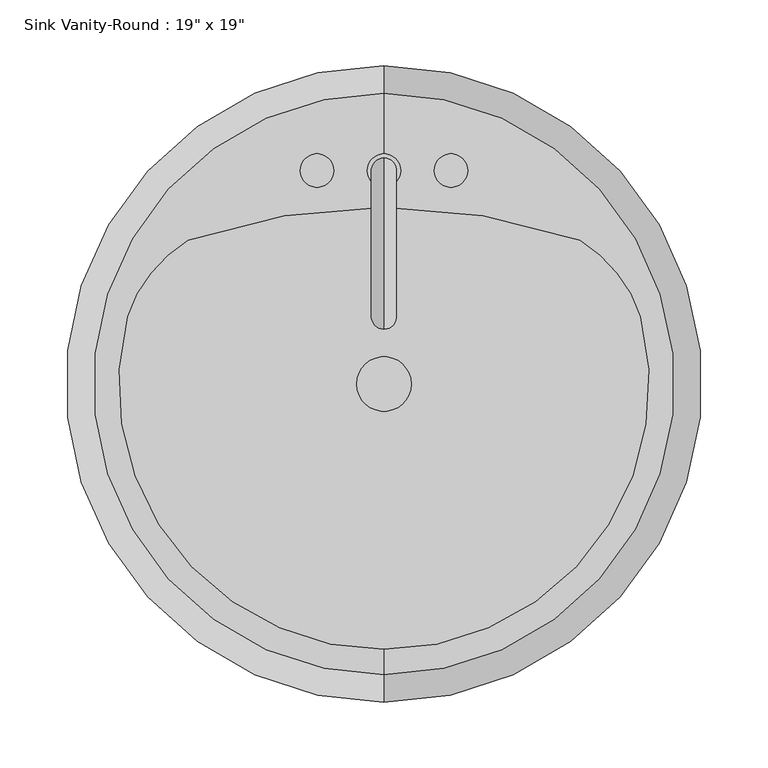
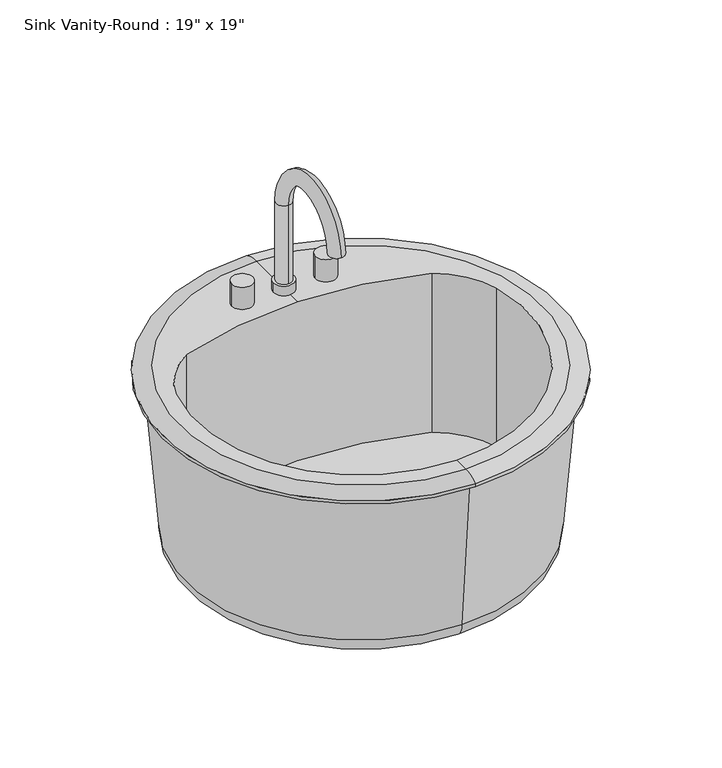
"""IFC4 building model written with IfcOpenShell, lengths in millimetres: flow terminal geometry."""

from ifc_helpers import new_model, si_unit, point, frame, frame_2d, origin, place, context, project, spatial, polyline, circle_curve, ellipse_curve, trimmed, segment, composite_curve, outline, extrude, source, transform, mapped, element, save
from ifc_brep_helpers import plane_surface, cylinder_surface, revolved_surface, advanced_brep


def flow_terminal_d49f872f(model_context):
    return source(origin(), model_context, "Body", "SolidModel", [
        advanced_brep(
        [(83.9517406, 247.0927185, 796.925), (109.3517406, 247.0927185, 796.925), (96.6517406, 237.5677185, 909.6375), (96.6517406, 256.6177185, 909.6375), (96.6517406, 256.6177185, 809.1602909), (96.6517406, 237.5677185, 809.1602909), (96.6517406, 145.7775038, 909.6375), (96.6517406, 126.7275038, 909.6375), (83.9517406, 247.0927185, 809.1602909), (109.3517406, 247.0927185, 809.1602909)],
        [
            (0, 1, circle_curve(frame((96.6517406, 247.0927185, 796.925), z_axis=(0.0, 0.0, -1.0), x_axis=(1.0, 0.0, 0.0)), 12.7)),
            (1, 0, circle_curve(frame((96.6517406, 247.0927185, 796.925), z_axis=(0.0, 0.0, -1.0), x_axis=(1.0, 0.0, 0.0)), 12.7)),
            (2, 3, circle_curve(frame((96.6517406, 247.0927185, 909.6375), z_axis=(0.0, 0.0, -1.0), x_axis=(0.0, 1.0, 0.0)), 9.525)),
            (3, 4),
            (4, 5, circle_curve(frame((96.6517406, 247.0927185, 809.1602909), z_axis=(0.0, 0.0, 1.0), x_axis=(0.0, 1.0, 0.0)), 9.525)),
            (5, 2),
            (3, 2, circle_curve(frame((96.6517406, 247.0927185, 909.6375), z_axis=(0.0, 0.0, -1.0), x_axis=(0.0, 1.0, 0.0)), 9.525)),
            (5, 4, circle_curve(frame((96.6517406, 247.0927185, 809.1602909), z_axis=(0.0, 0.0, 1.0), x_axis=(0.0, 1.0, 0.0)), 9.525)),
            (6, 7, circle_curve(frame((96.6517406, 136.2525038, 909.6375), z_axis=(0.0, 0.0, -1.0), x_axis=(0.0, -1.0, 0.0)), 9.525)),
            (7, 6, circle_curve(frame((96.6517406, 136.2525038, 909.6375), z_axis=(0.0, 0.0, -1.0), x_axis=(0.0, -1.0, 0.0)), 9.525)),
            (2, 6, circle_curve(frame((96.6517406, 191.6726112, 909.6375), z_axis=(1.0, 0.0, 0.0), x_axis=(0.0, 1.0, 0.0)), 45.8951073)),
            (7, 3, circle_curve(frame((96.6517406, 191.6726112, 909.6375), z_axis=(-1.0, 0.0, 0.0), x_axis=(0.0, 1.0, 0.0)), 64.9451073)),
            (8, 9, circle_curve(frame((96.6517406, 247.0927185, 809.1602909), z_axis=(0.0, 0.0, 1.0), x_axis=(1.0, 0.0, 0.0)), 12.7)),
            (9, 8, circle_curve(frame((96.6517406, 247.0927185, 809.1602909), z_axis=(0.0, 0.0, 1.0), x_axis=(1.0, 0.0, 0.0)), 12.7)),
            (8, 0),
            (1, 9),
        ],
        [
            plane_surface(frame((96.6517406, 237.5677185, 796.925), z_axis=(0.0, 0.0, -1.0), x_axis=(1.0, 0.0, 0.0))),
            cylinder_surface(frame((96.6517406, 247.0927185, 796.925), z_axis=(0.0, 0.0, -1.0), x_axis=(0.0, 1.0, 0.0)), 9.525),
            plane_surface(frame((96.6517406, 191.6726112, 909.6375), z_axis=(0.0, 0.0, -1.0), x_axis=(0.0, -1.0, 0.0))),
            revolved_surface(trimmed(ellipse_curve(frame((96.6517406, 247.0927185, 909.6375), z_axis=(0.0, 0.0, -1.0), x_axis=(0.0, 1.0, 0.0)), 9.525, 9.525), [point((96.6517406, 237.5677185, 909.6375))], [point((96.6517406, 256.6177185, 909.6375))], True, "CARTESIAN"), (96.6517406, 191.6726112, 909.6375), (1.0, 0.0, 0.0)),
            revolved_surface(trimmed(ellipse_curve(frame((96.6517406, 247.0927185, 909.6375), z_axis=(0.0, 0.0, -1.0), x_axis=(0.0, 1.0, 0.0)), 9.525, 9.525), [point((96.6517406, 256.6177185, 909.6375))], [point((96.6517406, 237.5677185, 909.6375))], True, "CARTESIAN"), (96.6517406, 191.6726112, 909.6375), (1.0, 0.0, 0.0)),
            plane_surface(frame((109.3517406, 247.0927185, 809.1602909), z_axis=(0.0, 0.0, 1.0), x_axis=(0.0, 1.0, 0.0))),
            cylinder_surface(frame((96.6517406, 247.0927185, 796.925), z_axis=(0.0, 0.0, 1.0), x_axis=(1.0, 0.0, 0.0)), 12.7),
        ],
        [
            (0, [[1, 2]]),
            (1, [[3, 4, 5, 6]]),
            (1, [[7, -6, 8, -4]]),
            (2, [[9, 10]]),
            (3, [[-3, 11, -10, 12]]),
            (4, [[-7, -12, -9, -11]]),
            (5, [[13, 14], [-5, -8]]),
            (6, [[-13, 15, -2, 16]]),
            (6, [[-14, -16, -1, -15]]),
        ],
    ),
        extrude(outline(composite_curve([segment(trimmed(circle_curve(frame_2d((45.8517406, 247.0927185)), 12.7), [point((33.1517406, 247.0927185))], [point((58.5517406, 247.0927185))], False, "CARTESIAN"), True, "CONTINUOUS"), segment(trimmed(circle_curve(frame_2d((45.8517406, 247.0927185)), 12.7), [point((58.5517406, 247.0927185))], [point((33.1517406, 247.0927185))], False, "CARTESIAN"), True, "CONTINUOUS")], self_intersect=False)), frame((0.0, 0.0, 796.925), z_axis=(0.0, 0.0, 1.0), x_axis=(1.0, 0.0, 0.0)), (0.0, 0.0, 1.0), 28.575),
        extrude(outline(composite_curve([segment(trimmed(circle_curve(frame_2d((147.4517406, 247.0927185)), 12.7), [point((134.7517406, 247.0927185))], [point((160.1517406, 247.0927185))], False, "CARTESIAN"), True, "CONTINUOUS"), segment(trimmed(circle_curve(frame_2d((147.4517406, 247.0927185)), 12.7), [point((160.1517406, 247.0927185))], [point((134.7517406, 247.0927185))], False, "CARTESIAN"), True, "CONTINUOUS")], self_intersect=False)), frame((0.0, 0.0, 796.925), z_axis=(0.0, 0.0, 1.0), x_axis=(1.0, 0.0, 0.0)), (0.0, 0.0, 1.0), 28.575),
        extrude(outline(composite_curve([segment(trimmed(circle_curve(frame_2d((96.6517406, 85.1677185)), 20.6375), [point((76.0142406, 85.1677185))], [point((117.2892406, 85.1677185))], False, "CARTESIAN"), True, "CONTINUOUS"), segment(trimmed(circle_curve(frame_2d((96.6517406, 85.1677185)), 20.6375), [point((117.2892406, 85.1677185))], [point((76.0142406, 85.1677185))], False, "CARTESIAN"), True, "CONTINUOUS")], self_intersect=False)), frame((0.0, 0.0, 571.5), z_axis=(0.0, 0.0, 1.0), x_axis=(1.0, 0.0, 0.0)), (0.0, 0.0, 1.0), 21.1842611),
        advanced_brep(
        [(96.6517406, -135.3870093, 796.925), (96.6517406, 305.7224463, 796.925), (96.6517406, 326.4677185, 791.36875), (96.6517406, -156.1322815, 791.36875), (96.6517406, -116.2405705, 796.925), (-98.1703414, 136.2525038, 796.925), (-52.1534933, 194.0861398, 796.925), (96.6517406, 219.2662048, 796.925), (245.4569744, 194.0861398, 796.925), (291.4738225, 136.2525038, 796.925), (96.6517406, -107.1264028, 571.5), (96.6517406, 277.4618398, 571.5), (96.6517406, 85.1677185, 571.5), (96.6517406, -127.6827361, 592.6842611), (96.6517406, 298.0181731, 592.6842611), (96.6517406, -144.2260315, 787.4), (96.6517406, 314.5614685, 787.4), (96.6517406, -156.1322815, 787.4), (96.6517406, 326.4677185, 787.4), (245.4569744, 194.0861398, 592.6842611), (-52.1534933, 194.0861398, 592.6842611), (-98.1703414, 136.2525038, 592.6842611), (291.4738225, 136.2525038, 592.6842611)],
        [
            (0, 1, circle_curve(frame((96.6517406, 85.1677185, 796.925), z_axis=(0.0, 0.0, -1.0), x_axis=(0.0, 1.0, 0.0)), 220.5547278)),
            (1, 2, circle_curve(frame((96.6517406, 309.4374616, 769.289434), z_axis=(-1.0, 0.0, 0.0), x_axis=(0.0, 1.0, 0.0)), 27.8841505)),
            (2, 3, circle_curve(frame((96.6517406, 85.1677185, 791.36875), z_axis=(0.0, 0.0, 1.0), x_axis=(0.0, 1.0, 0.0)), 241.3)),
            (3, 0, circle_curve(frame((96.6517406, -139.1020246, 769.289434), z_axis=(-1.0, 0.0, 0.0), x_axis=(0.0, -1.0, 0.0)), 27.8841505)),
            (1, 0, circle_curve(frame((96.6517406, 85.1677185, 796.925), z_axis=(0.0, 0.0, -1.0), x_axis=(0.0, 1.0, 0.0)), 220.5547278)),
            (3, 2, circle_curve(frame((96.6517406, 85.1677185, 791.36875), z_axis=(0.0, 0.0, 1.0), x_axis=(0.0, 1.0, 0.0)), 241.3)),
            (0, 4),
            (4, 5, circle_curve(frame((96.6517406, 85.1677185, 796.925), z_axis=(0.0, 0.0, -1.0), x_axis=(1.0, 0.0, 0.0)), 201.408289)),
            (5, 6, circle_curve(frame((1.3689689, 104.2755165, 796.925), z_axis=(0.0, 0.0, -1.0), x_axis=(1.0, 0.0, 0.0)), 104.5495194)),
            (6, 7, circle_curve(frame((96.6517406, -233.0168462, 796.925), z_axis=(0.0, 0.0, -1.0), x_axis=(1.0, 0.0, 0.0)), 452.283051)),
            (7, 1),
            (7, 8, circle_curve(frame((96.6517406, -233.0168462, 796.925), z_axis=(0.0, 0.0, -1.0), x_axis=(1.0, 0.0, 0.0)), 452.283051)),
            (8, 9, circle_curve(frame((191.9345122, 104.2755165, 796.925), z_axis=(0.0, 0.0, -1.0), x_axis=(1.0, 0.0, 0.0)), 104.5495194)),
            (9, 4, circle_curve(frame((96.6517406, 85.1677185, 796.925), z_axis=(0.0, 0.0, -1.0), x_axis=(1.0, 0.0, 0.0)), 201.408289)),
            (10, 11, circle_curve(frame((96.6517406, 85.1677185, 571.5), z_axis=(0.0, 0.0, -1.0), x_axis=(0.0, 1.0, 0.0)), 192.2941213)),
            (11, 12),
            (12, 10),
            (11, 10, circle_curve(frame((96.6517406, 85.1677185, 571.5), z_axis=(0.0, 0.0, -1.0), x_axis=(0.0, 1.0, 0.0)), 192.2941213)),
            (10, 13, circle_curve(frame((96.6517406, -107.1264028, 592.0656396), z_axis=(-1.0, 0.0, 0.0), x_axis=(0.0, -1.0, 0.0)), 20.5656396)),
            (13, 14, circle_curve(frame((96.6517406, 85.1677185, 592.6842611), z_axis=(0.0, 0.0, -1.0), x_axis=(0.0, 1.0, 0.0)), 212.8504546)),
            (14, 11, circle_curve(frame((96.6517406, 277.4618398, 592.0656396), z_axis=(-1.0, 0.0, 0.0), x_axis=(0.0, 1.0, 0.0)), 20.5656396)),
            (14, 13, circle_curve(frame((96.6517406, 85.1677185, 592.6842611), z_axis=(0.0, 0.0, -1.0), x_axis=(0.0, 1.0, 0.0)), 212.8504546)),
            (13, 15),
            (15, 16, circle_curve(frame((96.6517406, 85.1677185, 787.4), z_axis=(0.0, 0.0, -1.0), x_axis=(0.0, 1.0, 0.0)), 229.39375)),
            (16, 14),
            (16, 15, circle_curve(frame((96.6517406, 85.1677185, 787.4), z_axis=(0.0, 0.0, -1.0), x_axis=(0.0, 1.0, 0.0)), 229.39375)),
            (15, 17),
            (17, 18, circle_curve(frame((96.6517406, 85.1677185, 787.4), z_axis=(0.0, 0.0, -1.0), x_axis=(0.0, 1.0, 0.0)), 241.3)),
            (18, 16),
            (18, 17, circle_curve(frame((96.6517406, 85.1677185, 787.4), z_axis=(0.0, 0.0, -1.0), x_axis=(0.0, 1.0, 0.0)), 241.3)),
            (2, 18),
            (17, 3),
            (19, 20, circle_curve(frame((96.6517406, -233.0168462, 592.6842611), z_axis=(0.0, 0.0, 1.0), x_axis=(1.0, 0.0, 0.0)), 452.283051)),
            (20, 21, circle_curve(frame((1.3689689, 104.2755165, 592.6842611), z_axis=(0.0, 0.0, 1.0), x_axis=(1.0, 0.0, 0.0)), 104.5495194)),
            (21, 22, circle_curve(frame((96.6517406, 85.1677185, 592.6842611), z_axis=(0.0, 0.0, 1.0), x_axis=(1.0, 0.0, 0.0)), 201.408289)),
            (22, 19, circle_curve(frame((191.9345122, 104.2755165, 592.6842611), z_axis=(0.0, 0.0, 1.0), x_axis=(1.0, 0.0, 0.0)), 104.5495194)),
            (19, 8),
            (6, 20),
            (5, 21),
            (9, 22),
        ],
        [
            revolved_surface(trimmed(ellipse_curve(frame((96.6517406, 309.4374616, 769.289434), z_axis=(1.0, 0.0, 0.0), x_axis=(0.0, 1.0, 0.0)), 27.8841505, 27.8841505), [point((96.6517406, 326.4677185, 791.36875))], [point((96.6517406, 305.7224463, 796.925))], True, "CARTESIAN"), (96.6517406, 85.1677185, 796.925), (0.0, 0.0, 1.0)),
            plane_surface(frame((96.6517406, 85.1677185, 796.925), z_axis=(0.0, 0.0, 1.0), x_axis=(0.0, 1.0, 0.0))),
            plane_surface(frame((96.6517406, 85.1677185, 571.5), z_axis=(0.0, 0.0, -1.0), x_axis=(0.0, 1.0, 0.0))),
            revolved_surface(trimmed(ellipse_curve(frame((96.6517406, 277.4618398, 592.0656396), z_axis=(1.0, 0.0, 0.0), x_axis=(0.0, 1.0, 0.0)), 20.5656396, 20.5656396), [point((96.6517406, 277.4618398, 571.5))], [point((96.6517406, 298.0181731, 592.6842611))], True, "CARTESIAN"), (96.6517406, 85.1677185, 796.925), (0.0, 0.0, 1.0)),
            revolved_surface(polyline([(96.6517406, 298.0181731, 592.6842611), (96.6517406, 314.5614685, 787.4)]), (96.6517406, 85.1677185, 796.925), (0.0, 0.0, 1.0)),
            plane_surface(frame((96.6517406, 85.1677185, 787.4), z_axis=(0.0, 0.0, -1.0), x_axis=(0.0, 1.0, 0.0))),
            cylinder_surface(frame((96.6517406, 85.1677185, 796.925), z_axis=(0.0, 0.0, 1.0), x_axis=(0.0, 1.0, 0.0)), 241.3),
            plane_surface(frame((548.9347916, -233.0168462, 592.6842611), z_axis=(0.0, 0.0, 1.0), x_axis=(0.0, -1.0, 0.0))),
            revolved_surface(polyline([(548.9347916, -233.0168462, 796.925), (548.9347916, -233.0168462, 592.6842611)]), (96.6517406, -233.0168462, 592.6842611), (0.0, 0.0, 1.0)),
            revolved_surface(polyline([(105.91848829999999, 104.2755165, 796.925), (105.91848829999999, 104.2755165, 592.6842611)]), (1.3689689, 104.2755165, 592.6842611), (0.0, 0.0, 1.0)),
            revolved_surface(polyline([(298.0600296, 85.1677185, 796.925), (298.0600296, 85.1677185, 592.6842611)]), (96.6517406, 85.1677185, 592.6842611), (0.0, 0.0, 1.0)),
            revolved_surface(polyline([(296.4840316, 104.2755165, 796.925), (296.4840316, 104.2755165, 592.6842611)]), (191.9345122, 104.2755165, 592.6842611), (0.0, 0.0, 1.0)),
        ],
        [
            (0, [[1, 2, 3, 4]]),
            (0, [[-2, 5, -4, 6]]),
            (1, [[-1, 7, 8, 9, 10, 11]]),
            (1, [[-5, -11, 12, 13, 14, -7]]),
            (2, [[15, 16, 17]]),
            (2, [[-16, 18, -17]]),
            (3, [[-15, 19, 20, 21]]),
            (3, [[-18, -21, 22, -19]]),
            (4, [[-20, 23, 24, 25]]),
            (4, [[-22, -25, 26, -23]]),
            (5, [[-24, 27, 28, 29]]),
            (5, [[-26, -29, 30, -27]]),
            (6, [[-3, 31, -28, 32]]),
            (6, [[-6, -32, -30, -31]]),
            (7, [[33, 34, 35, 36]]),
            (8, [[-33, 37, -12, -10, 38]]),
            (9, [[-34, -38, -9, 39]]),
            (10, [[-35, -39, -8, -14, 40]]),
            (11, [[-36, -40, -13, -37]]),
        ],
    ),
    ])


if __name__ == "__main__":
    model = new_model("IFC4")
    model_context = context("Model", 3, world=origin())
    ifc_project = project(units=[si_unit("LENGTHUNIT", "METRE", prefix="MILLI")], contexts=[model_context])
    site = spatial("IfcSite", under=ifc_project)
    building = spatial("IfcBuilding", under=site)
    placement = place(None, origin())
    flow_terminal_shape = flow_terminal_d49f872f(model_context)
    element("IfcFlowTerminal", 1, ObjectType="Sink Vanity-Round : 19\" x 19\"", at=placement, inside=building, context=model_context, shape_type="MappedRepresentation", body=[
        mapped(flow_terminal_shape, transform((0.0, 0.0, 0.0), x_axis=(1.0, 0.0, 0.0), y_axis=(0.0, 1.0, 0.0), z_axis=(0.0, 0.0, 1.0))),
    ])
    save(model, "model.ifc")
